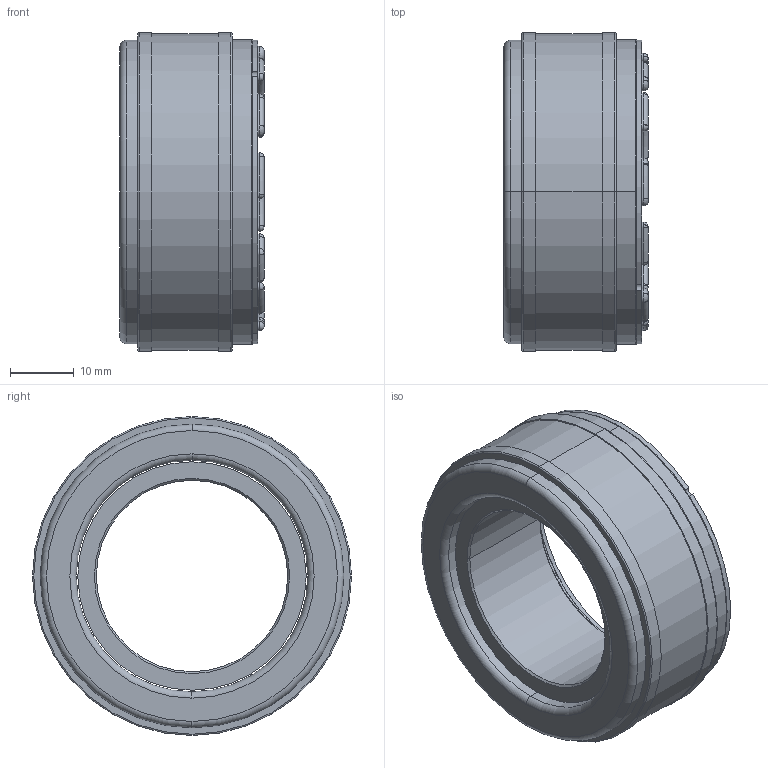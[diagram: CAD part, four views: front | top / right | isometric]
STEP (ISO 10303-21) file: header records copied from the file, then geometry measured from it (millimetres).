
FILE_DESCRIPTION (( 'STEP AP214' ), '1' );
FILE_NAME ('E-00106260.01.step', '2019-02-21T11:43:25', ( 'Admin' ), ( 'Microsoft' ), 'SwSTEP 2.0', 'SolidWorks 2018', '' );
FILE_SCHEMA (( 'AUTOMOTIVE_DESIGN' ));
Length unit declared in the file: millimetre
Products named in the file (4): E-00008338; E-00106165; E-00106260.01; E-00008345
Assembly tree (3 placements, depth 2):
  E-00106260.01
    E-00106165
    E-00008338
    E-00008345
Bounding box: 22.6 x 50 x 50 mm (x, y, z)
Volume: 23370.3 mm3; surface area: 13306.1 mm2
Topology: 3 solids, 3 shells, 886 faces, 2015 edges, 1303 vertices
Faces by surface type: cylinder 437, plane 372, torus 46, sphere 27, cone 4
Entity records: 33091 total; most frequent: DIRECTION 4808, CARTESIAN_POINT 4177, ORIENTED_EDGE 3958, EDGE_CURVE 1979, AXIS2_PLACEMENT_3D 1942, VERTEX_POINT 1285, EDGE_LOOP 1084, CIRCLE 1050
